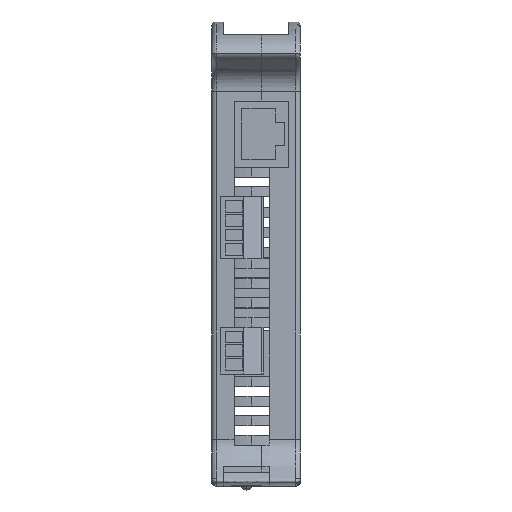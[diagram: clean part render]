
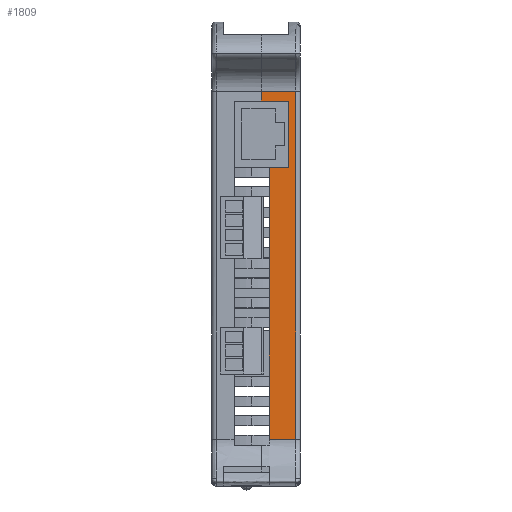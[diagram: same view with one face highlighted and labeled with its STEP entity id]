
A CAD part, left-side view. The second image highlights one B-rep face of the part: STEP entity #1809.
In plain terms, the highlighted planar face has unit normal (-1, 0, 0) as drawn and (0, 0, -1) by its records, which use the part's own axes.
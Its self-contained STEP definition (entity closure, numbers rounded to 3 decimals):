
#975 = VECTOR ( 'NONE', #11118, 1000. ) ;
#1809 = ADVANCED_FACE ( 'NONE', ( #21401 ), #21613, .T. ) ;
#2132 = VERTEX_POINT ( 'NONE', #12979 ) ;
#2510 = CARTESIAN_POINT ( 'NONE',  ( 0., 8., -41.5 ) ) ;
#2576 = VERTEX_POINT ( 'NONE', #3229 ) ;
#3104 = EDGE_CURVE ( 'NONE', #24439, #22670, #11886, .T. ) ;
#3229 = CARTESIAN_POINT ( 'NONE',  ( 47.5, 1.25, -41.5 ) ) ;
#3236 = EDGE_CURVE ( 'NONE', #2132, #21502, #41778, .T. ) ;
#4923 = EDGE_CURVE ( 'NONE', #33306, #24031, #10243, .T. ) ;
#5214 = CARTESIAN_POINT ( 'NONE',  ( -22.238, 3., -41.5 ) ) ;
#6114 = ORIENTED_EDGE ( 'NONE', *, *, #17425, .T. ) ;
#6593 = CARTESIAN_POINT ( 'NONE',  ( -41.722, 1.25, -41.5 ) ) ;
#8556 = CARTESIAN_POINT ( 'NONE',  ( 47.5, 8., -41.5 ) ) ;
#10243 = LINE ( 'NONE', #20462, #11282 ) ;
#10520 = EDGE_CURVE ( 'NONE', #21502, #2576, #30422, .T. ) ;
#11118 = DIRECTION ( 'NONE',  ( 0., 1., 0. ) ) ;
#11282 = VECTOR ( 'NONE', #20376, 1000. ) ;
#11424 = DIRECTION ( 'NONE',  ( 0., -1., 0. ) ) ;
#11886 = LINE ( 'NONE', #2510, #35034 ) ;
#12979 = CARTESIAN_POINT ( 'NONE',  ( -41.722, 10., -41.5 ) ) ;
#13934 = EDGE_CURVE ( 'NONE', #24031, #32757, #38302, .T. ) ;
#15046 = CARTESIAN_POINT ( 'NONE',  ( -39.238, 10., -41.5 ) ) ;
#16768 = ORIENTED_EDGE ( 'NONE', *, *, #10520, .F. ) ;
#17425 = EDGE_CURVE ( 'NONE', #32757, #24439, #35840, .T. ) ;
#17948 = VECTOR ( 'NONE', #11424, 1000. ) ;
#18217 = ORIENTED_EDGE ( 'NONE', *, *, #32798, .F. ) ;
#18435 = VECTOR ( 'NONE', #29648, 1000. ) ;
#18827 = ORIENTED_EDGE ( 'NONE', *, *, #30934, .T. ) ;
#19793 = CARTESIAN_POINT ( 'NONE',  ( -22.238, 8., -41.5 ) ) ;
#20376 = DIRECTION ( 'NONE',  ( 0., -1., 0. ) ) ;
#20461 = DIRECTION ( 'NONE',  ( -1., 0., 0. ) ) ;
#20462 = CARTESIAN_POINT ( 'NONE',  ( -39.238, 10., -41.5 ) ) ;
#20466 = DIRECTION ( 'NONE',  ( 0., 0., -1. ) ) ;
#20522 = CARTESIAN_POINT ( 'NONE',  ( 0., 10., -41.5 ) ) ;
#20857 = CARTESIAN_POINT ( 'NONE',  ( -39.238, 3., -41.5 ) ) ;
#21401 = FACE_OUTER_BOUND ( 'NONE', #42220, .T. ) ;
#21502 = VERTEX_POINT ( 'NONE', #6593 ) ;
#21613 = PLANE ( 'NONE',  #23748 ) ;
#22280 = CARTESIAN_POINT ( 'NONE',  ( 47.5, 5.625, -41.5 ) ) ;
#22670 = VERTEX_POINT ( 'NONE', #8556 ) ;
#23037 = ORIENTED_EDGE ( 'NONE', *, *, #3104, .T. ) ;
#23748 = AXIS2_PLACEMENT_3D ( 'NONE', #20522, #20466, #20461 ) ;
#24031 = VERTEX_POINT ( 'NONE', #20857 ) ;
#24439 = VERTEX_POINT ( 'NONE', #19793 ) ;
#24790 = LINE ( 'NONE', #22280, #41578 ) ;
#25231 = ORIENTED_EDGE ( 'NONE', *, *, #3236, .F. ) ;
#27549 = LINE ( 'NONE', #39749, #18435 ) ;
#28835 = VECTOR ( 'NONE', #41033, 1000. ) ;
#29129 = DIRECTION ( 'NONE',  ( 0., 1., 0. ) ) ;
#29555 = CARTESIAN_POINT ( 'NONE',  ( -41.722, 5.625, -41.5 ) ) ;
#29648 = DIRECTION ( 'NONE',  ( 1., 0., 0. ) ) ;
#29887 = VECTOR ( 'NONE', #32997, 1000. ) ;
#30422 = LINE ( 'NONE', #33885, #29887 ) ;
#30454 = ORIENTED_EDGE ( 'NONE', *, *, #4923, .T. ) ;
#30934 = EDGE_CURVE ( 'NONE', #2132, #33306, #27549, .T. ) ;
#32757 = VERTEX_POINT ( 'NONE', #5214 ) ;
#32798 = EDGE_CURVE ( 'NONE', #2576, #22670, #24790, .T. ) ;
#32997 = DIRECTION ( 'NONE',  ( 1., 0., 0. ) ) ;
#33306 = VERTEX_POINT ( 'NONE', #15046 ) ;
#33885 = CARTESIAN_POINT ( 'NONE',  ( 0., 1.25, -41.5 ) ) ;
#34646 = ORIENTED_EDGE ( 'NONE', *, *, #13934, .T. ) ;
#35034 = VECTOR ( 'NONE', #40398, 1000. ) ;
#35840 = LINE ( 'NONE', #43266, #975 ) ;
#38302 = LINE ( 'NONE', #41065, #28835 ) ;
#39749 = CARTESIAN_POINT ( 'NONE',  ( 0., 10., -41.5 ) ) ;
#40398 = DIRECTION ( 'NONE',  ( 1., 0., 0. ) ) ;
#41033 = DIRECTION ( 'NONE',  ( 1., 0., 0. ) ) ;
#41065 = CARTESIAN_POINT ( 'NONE',  ( 0., 3., -41.5 ) ) ;
#41578 = VECTOR ( 'NONE', #29129, 1000. ) ;
#41778 = LINE ( 'NONE', #29555, #17948 ) ;
#42220 = EDGE_LOOP ( 'NONE', ( #30454, #34646, #6114, #23037, #18217, #16768, #25231, #18827 ) ) ;
#43266 = CARTESIAN_POINT ( 'NONE',  ( -22.238, 10., -41.5 ) ) ;
